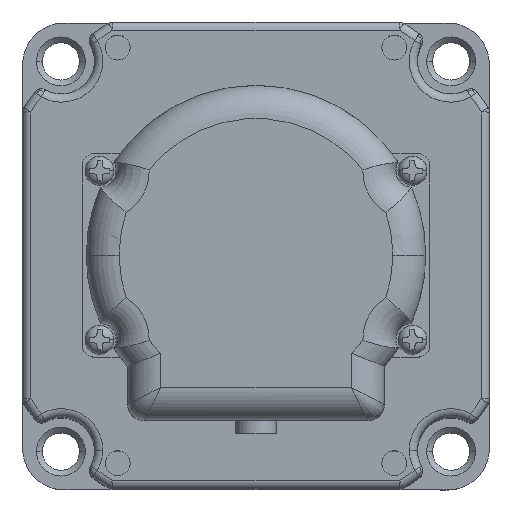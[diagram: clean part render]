
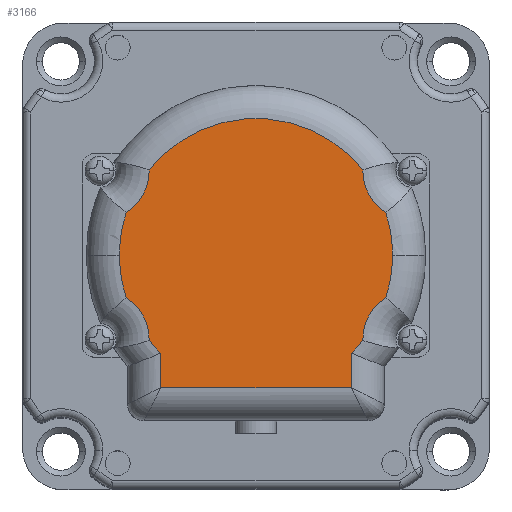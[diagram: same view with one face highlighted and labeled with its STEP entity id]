
A CAD part, top view. The second image highlights one B-rep face of the part: STEP entity #3166.
In plain terms, the highlighted planar face has unit normal (0, 0, 1).
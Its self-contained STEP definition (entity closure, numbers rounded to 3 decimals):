
#693 = EDGE_CURVE ( 'NONE', #5690, #5707, #14600, .T. ) ;
#697 = EDGE_CURVE ( 'NONE', #5708, #5707, #14605, .T. ) ;
#699 = EDGE_CURVE ( 'NONE', #5709, #5708, #14609, .T. ) ;
#701 = EDGE_CURVE ( 'NONE', #5697, #5709, #14611, .T. ) ;
#703 = EDGE_CURVE ( 'NONE', #5710, #5685, #14616, .T. ) ;
#705 = EDGE_CURVE ( 'NONE', #5711, #5710, #14618, .T. ) ;
#707 = EDGE_CURVE ( 'NONE', #5687, #5711, #14620, .T. ) ;
#2329 = CARTESIAN_POINT ( 'NONE',  ( -16.5, 0., 79.8 ) ) ;
#2330 = CARTESIAN_POINT ( 'NONE',  ( -15.68, -5.137, 79.8 ) ) ;
#2331 = CARTESIAN_POINT ( 'NONE',  ( 16.5, 0., 79.8 ) ) ;
#2332 = CARTESIAN_POINT ( 'NONE',  ( 15.68, -5.137, 79.8 ) ) ;
#2335 = CARTESIAN_POINT ( 'NONE',  ( 12.901, 10.287, 79.8 ) ) ;
#2336 = CARTESIAN_POINT ( 'NONE',  ( 15.68, 5.137, 79.8 ) ) ;
#2337 = CARTESIAN_POINT ( 'NONE',  ( -15.68, 5.137, 79.8 ) ) ;
#2340 = CARTESIAN_POINT ( 'NONE',  ( -12.901, 10.287, 79.8 ) ) ;
#2342 = CARTESIAN_POINT ( 'NONE',  ( -11.5, 11.832, 79.8 ) ) ;
#2352 = CARTESIAN_POINT ( 'NONE',  ( 11.5, 11.832, 79.8 ) ) ;
#2353 = CARTESIAN_POINT ( 'NONE',  ( 11.5, 16., 79.8 ) ) ;
#2354 = CARTESIAN_POINT ( 'NONE',  ( -11.5, 16., 79.8 ) ) ;
#2355 = CARTESIAN_POINT ( 'NONE',  ( -12.901, -10.287, 79.8 ) ) ;
#2356 = CARTESIAN_POINT ( 'NONE',  ( 12.901, -10.287, 79.8 ) ) ;
#2988 = ORIENTED_EDGE ( 'NONE', *, *, #697, .F. ) ;
#2989 = ORIENTED_EDGE ( 'NONE', *, *, #699, .F. ) ;
#2990 = ORIENTED_EDGE ( 'NONE', *, *, #701, .F. ) ;
#2991 = ORIENTED_EDGE ( 'NONE', *, *, #4931, .T. ) ;
#2992 = ORIENTED_EDGE ( 'NONE', *, *, #4925, .T. ) ;
#2993 = ORIENTED_EDGE ( 'NONE', *, *, #4918, .T. ) ;
#2994 = ORIENTED_EDGE ( 'NONE', *, *, #4906, .T. ) ;
#2995 = ORIENTED_EDGE ( 'NONE', *, *, #703, .F. ) ;
#2996 = ORIENTED_EDGE ( 'NONE', *, *, #705, .F. ) ;
#2997 = ORIENTED_EDGE ( 'NONE', *, *, #707, .F. ) ;
#2998 = ORIENTED_EDGE ( 'NONE', *, *, #4910, .T. ) ;
#2999 = ORIENTED_EDGE ( 'NONE', *, *, #4917, .T. ) ;
#3000 = ORIENTED_EDGE ( 'NONE', *, *, #4914, .T. ) ;
#3001 = ORIENTED_EDGE ( 'NONE', *, *, #693, .T. ) ;
#3166 = ADVANCED_FACE ( 'NONE', ( #14776 ), #13612, .T. ) ;
#4195 = EDGE_LOOP ( 'NONE', ( #2988, #2989, #2990, #2991, #2992, #2993, #2994, #2995, #2996, #2997, #2998, #2999, #3000, #3001 ) ) ;
#4906 = EDGE_CURVE ( 'NONE', #5684, #5685, #11498, .T. ) ;
#4910 = EDGE_CURVE ( 'NONE', #5687, #5686, #11508, .T. ) ;
#4914 = EDGE_CURVE ( 'NONE', #5691, #5690, #11515, .T. ) ;
#4917 = EDGE_CURVE ( 'NONE', #5686, #5691, #11521, .T. ) ;
#4918 = EDGE_CURVE ( 'NONE', #5692, #5684, #11525, .T. ) ;
#4925 = EDGE_CURVE ( 'NONE', #5695, #5692, #11546, .T. ) ;
#4931 = EDGE_CURVE ( 'NONE', #5697, #5695, #11565, .T. ) ;
#5684 = VERTEX_POINT ( 'NONE', #2329 ) ;
#5685 = VERTEX_POINT ( 'NONE', #2330 ) ;
#5686 = VERTEX_POINT ( 'NONE', #2331 ) ;
#5687 = VERTEX_POINT ( 'NONE', #2332 ) ;
#5690 = VERTEX_POINT ( 'NONE', #2335 ) ;
#5691 = VERTEX_POINT ( 'NONE', #2336 ) ;
#5692 = VERTEX_POINT ( 'NONE', #2337 ) ;
#5695 = VERTEX_POINT ( 'NONE', #2340 ) ;
#5697 = VERTEX_POINT ( 'NONE', #2342 ) ;
#5707 = VERTEX_POINT ( 'NONE', #2352 ) ;
#5708 = VERTEX_POINT ( 'NONE', #2353 ) ;
#5709 = VERTEX_POINT ( 'NONE', #2354 ) ;
#5710 = VERTEX_POINT ( 'NONE', #2355 ) ;
#5711 = VERTEX_POINT ( 'NONE', #2356 ) ;
#5981 = CARTESIAN_POINT ( 'NONE',  ( 0., 0., 79.8 ) ) ;
#5982 = DIRECTION ( 'NONE',  ( 0., 0., 1. ) ) ;
#5983 = DIRECTION ( 'NONE',  ( -1., 0., 0. ) ) ;
#6010 = CARTESIAN_POINT ( 'NONE',  ( 0., 0., 79.8 ) ) ;
#6011 = DIRECTION ( 'NONE',  ( 0., 0., 1. ) ) ;
#6012 = DIRECTION ( 'NONE',  ( 1., 0., 0. ) ) ;
#6056 = CARTESIAN_POINT ( 'NONE',  ( 18.9, 10.2, 79.8 ) ) ;
#6057 = DIRECTION ( 'NONE',  ( 0., 0., -1. ) ) ;
#6058 = DIRECTION ( 'NONE',  ( 1., 0., 0. ) ) ;
#6082 = CARTESIAN_POINT ( 'NONE',  ( 0., 0., 79.8 ) ) ;
#6083 = DIRECTION ( 'NONE',  ( 0., 0., 1. ) ) ;
#6084 = DIRECTION ( 'NONE',  ( 1., 0., 0. ) ) ;
#6085 = CARTESIAN_POINT ( 'NONE',  ( 0., 0., 79.8 ) ) ;
#6086 = DIRECTION ( 'NONE',  ( 0., 0., 1. ) ) ;
#6087 = DIRECTION ( 'NONE',  ( -1., 0., 0. ) ) ;
#6122 = CARTESIAN_POINT ( 'NONE',  ( -18.9, 10.2, 79.8 ) ) ;
#6123 = DIRECTION ( 'NONE',  ( 0., 0., -1. ) ) ;
#6124 = DIRECTION ( 'NONE',  ( -1., 0., 0. ) ) ;
#6156 = CARTESIAN_POINT ( 'NONE',  ( 0., 0., 79.8 ) ) ;
#6157 = DIRECTION ( 'NONE',  ( 0., 0., 1. ) ) ;
#6158 = DIRECTION ( 'NONE',  ( 0., 1., 0. ) ) ;
#7614 = AXIS2_PLACEMENT_3D ( 'NONE', #7830, #7831, #7832 ) ;
#7618 = AXIS2_PLACEMENT_3D ( 'NONE', #7854, #7855, #7856 ) ;
#7620 = AXIS2_PLACEMENT_3D ( 'NONE', #7860, #7861, #7862 ) ;
#7622 = AXIS2_PLACEMENT_3D ( 'NONE', #7866, #7867, #7868 ) ;
#7685 = AXIS2_PLACEMENT_3D ( 'NONE', #13613, #13614, #13615 ) ;
#7830 = CARTESIAN_POINT ( 'NONE',  ( 0., 0., 79.8 ) ) ;
#7831 = DIRECTION ( 'NONE',  ( 0., 0., 1. ) ) ;
#7832 = DIRECTION ( 'NONE',  ( 1., 0., 0. ) ) ;
#7841 = CARTESIAN_POINT ( 'NONE',  ( 11.5, 14.924, 79.8 ) ) ;
#7842 = DIRECTION ( 'NONE',  ( 0., -1., 0. ) ) ;
#7845 = CARTESIAN_POINT ( 'NONE',  ( 0., 16., 79.8 ) ) ;
#7846 = DIRECTION ( 'NONE',  ( 1., 0., 0. ) ) ;
#7850 = CARTESIAN_POINT ( 'NONE',  ( -11.5, 14.924, 79.8 ) ) ;
#7851 = DIRECTION ( 'NONE',  ( 0., 1., 0. ) ) ;
#7854 = CARTESIAN_POINT ( 'NONE',  ( -18.9, -10.2, 79.8 ) ) ;
#7855 = DIRECTION ( 'NONE',  ( 0., 0., 1. ) ) ;
#7856 = DIRECTION ( 'NONE',  ( 0., 1., 0. ) ) ;
#7860 = CARTESIAN_POINT ( 'NONE',  ( 0., 0., 79.8 ) ) ;
#7861 = DIRECTION ( 'NONE',  ( 0., 0., -1. ) ) ;
#7862 = DIRECTION ( 'NONE',  ( 0., 1., 0. ) ) ;
#7866 = CARTESIAN_POINT ( 'NONE',  ( 18.9, -10.2, 79.8 ) ) ;
#7867 = DIRECTION ( 'NONE',  ( 0., 0., 1. ) ) ;
#7868 = DIRECTION ( 'NONE',  ( 1., 0., 0. ) ) ;
#8179 = AXIS2_PLACEMENT_3D ( 'NONE', #5981, #5982, #5983 ) ;
#8182 = AXIS2_PLACEMENT_3D ( 'NONE', #6010, #6011, #6012 ) ;
#8184 = AXIS2_PLACEMENT_3D ( 'NONE', #6056, #6057, #6058 ) ;
#8186 = AXIS2_PLACEMENT_3D ( 'NONE', #6082, #6083, #6084 ) ;
#8187 = AXIS2_PLACEMENT_3D ( 'NONE', #6085, #6086, #6087 ) ;
#8192 = AXIS2_PLACEMENT_3D ( 'NONE', #6122, #6123, #6124 ) ;
#8196 = AXIS2_PLACEMENT_3D ( 'NONE', #6156, #6157, #6158 ) ;
#11498 = CIRCLE ( 'NONE', #8179, 16.5 ) ;
#11508 = CIRCLE ( 'NONE', #8182, 16.5 ) ;
#11515 = CIRCLE ( 'NONE', #8184, 6. ) ;
#11521 = CIRCLE ( 'NONE', #8186, 16.5 ) ;
#11525 = CIRCLE ( 'NONE', #8187, 16.5 ) ;
#11546 = CIRCLE ( 'NONE', #8192, 6. ) ;
#11565 = CIRCLE ( 'NONE', #8196, 16.5 ) ;
#13612 = PLANE ( 'NONE',  #7685 ) ;
#13613 = CARTESIAN_POINT ( 'NONE',  ( -20.836, -30.712, 79.8 ) ) ;
#13614 = DIRECTION ( 'NONE',  ( 0., 0., 1. ) ) ;
#13615 = DIRECTION ( 'NONE',  ( 1., 0., 0. ) ) ;
#14600 = CIRCLE ( 'NONE', #7614, 16.5 ) ;
#14605 = LINE ( 'NONE', #7841, #14606 ) ;
#14606 = VECTOR ( 'NONE', #7842, 1000. ) ;
#14609 = LINE ( 'NONE', #7845, #14610 ) ;
#14610 = VECTOR ( 'NONE', #7846, 1000. ) ;
#14611 = LINE ( 'NONE', #7850, #14613 ) ;
#14613 = VECTOR ( 'NONE', #7851, 1000. ) ;
#14616 = CIRCLE ( 'NONE', #7618, 6. ) ;
#14618 = CIRCLE ( 'NONE', #7620, 16.5 ) ;
#14620 = CIRCLE ( 'NONE', #7622, 6. ) ;
#14776 = FACE_OUTER_BOUND ( 'NONE', #4195, .T. ) ;
